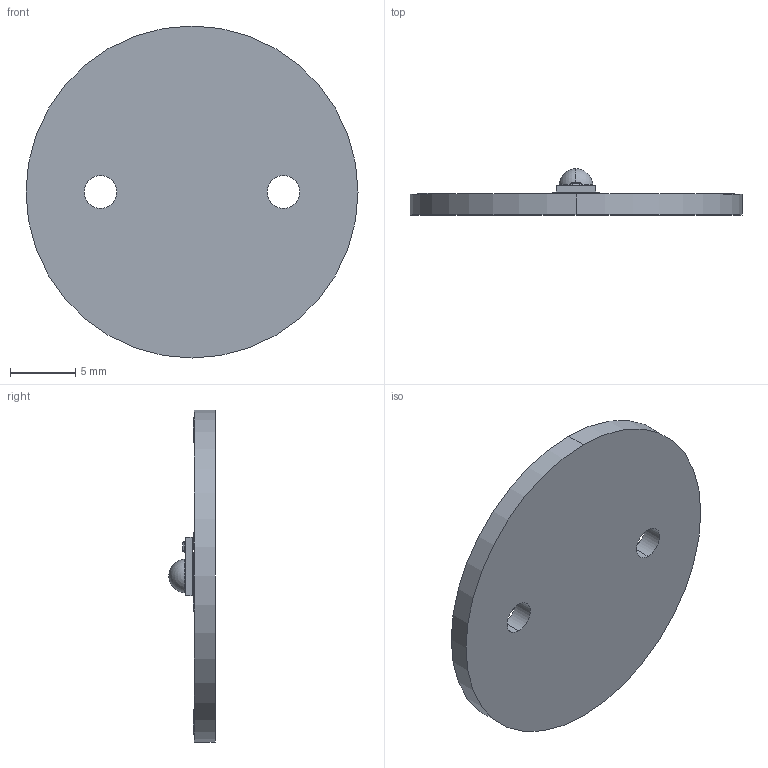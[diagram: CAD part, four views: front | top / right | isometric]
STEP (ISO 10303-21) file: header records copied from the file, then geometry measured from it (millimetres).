
FILE_DESCRIPTION (( 'STEP AP214' ), '1' );
FILE_NAME ('SP-06.STEP', '2014-07-29T15:47:36', ( 'MainServer' ), ( '' ), 'SwSTEP 2.0', 'SolidWorks 2014', '' );
FILE_SCHEMA (( 'AUTOMOTIVE_DESIGN' ));
Length unit declared in the file: inch
Products named in the file (3): Luxeon Rebel ES; SP-06 Base; SP-06
Assembly tree (2 placements, depth 2):
  SP-06
    SP-06 Base
    Luxeon Rebel ES
Bounding box: 25.4 x 3.55 x 25.4 mm (x, y, z)
Volume: 810.1 mm3; surface area: 1194.2 mm2
Topology: 2 solids, 2 shells, 432 faces, 1129 edges, 743 vertices
Faces by surface type: plane 263, bspline 101, cylinder 56, sphere 6, torus 6
Entity records: 23898 total; most frequent: CARTESIAN_POINT 8286, ORIENTED_EDGE 2250, DIRECTION 1719, EDGE_CURVE 1125, LINE 799, VECTOR 799, VERTEX_POINT 743, EDGE_LOOP 482
